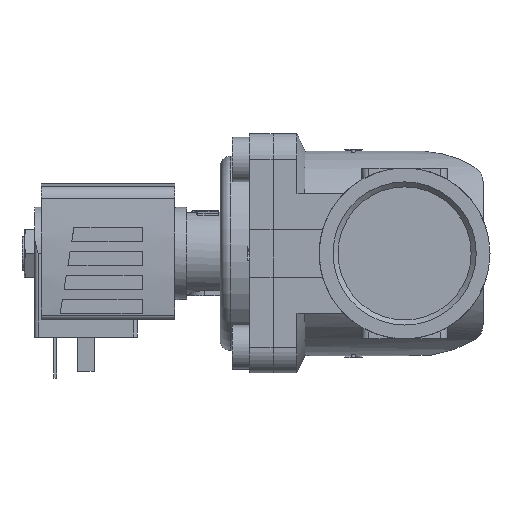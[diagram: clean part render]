
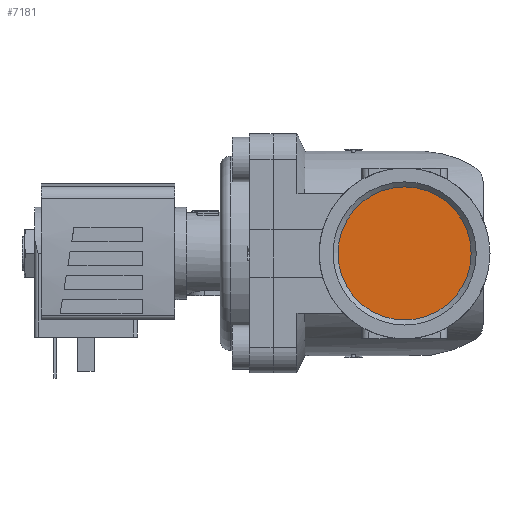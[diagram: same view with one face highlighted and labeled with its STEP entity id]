
A CAD part, left-side view. The second image highlights one B-rep face of the part: STEP entity #7181.
In plain terms, the highlighted planar face has unit normal (-1, 0, 0).
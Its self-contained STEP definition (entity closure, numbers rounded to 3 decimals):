
#2499=ORIENTED_EDGE('',*,*,#3656,.F.);
#3656=EDGE_CURVE('',#4332,#4332,#4659,.T.);
#4332=VERTEX_POINT('',#11116);
#4659=CIRCLE('',#7731,19.476);
#4972=EDGE_LOOP('',(#2499));
#5370=FACE_BOUND('',#4972,.T.);
#5662=PLANE('',#7732);
#7181=ADVANCED_FACE('',(#5370),#5662,.T.);
#7731=AXIS2_PLACEMENT_3D('',#11115,#9091,#9092);
#7732=AXIS2_PLACEMENT_3D('',#11117,#9093,#9094);
#9091=DIRECTION('',(1.,0.,0.));
#9092=DIRECTION('',(0.,0.,-1.));
#9093=DIRECTION('',(-1.,0.,0.));
#9094=DIRECTION('',(0.,0.,1.));
#11115=CARTESIAN_POINT('',(-26.5,0.,0.));
#11116=CARTESIAN_POINT('',(-26.5,0.,-19.476));
#11117=CARTESIAN_POINT('',(-26.5,19.476,0.));
